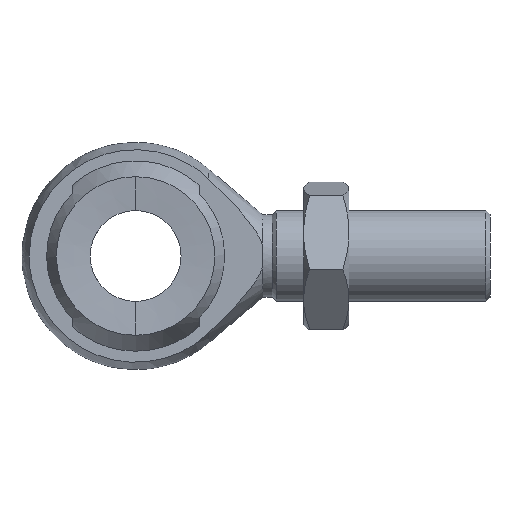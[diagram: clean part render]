
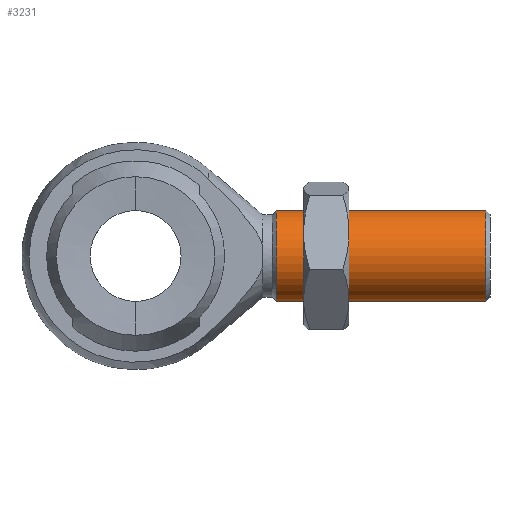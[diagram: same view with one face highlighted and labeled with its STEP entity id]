
A CAD part, front view. The second image highlights one B-rep face of the part: STEP entity #3231.
In plain terms, the highlighted cylindrical face has radius 10 mm (diameter 20 mm), a partial arc.
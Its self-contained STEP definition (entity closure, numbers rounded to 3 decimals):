
#78 = EDGE_LOOP ( 'NONE', ( #1681, #1058, #1233, #1677 ) ) ;
#163 = DIRECTION ( 'NONE',  ( 0., 0., 1. ) ) ;
#296 = DIRECTION ( 'NONE',  ( 1., 0., 0. ) ) ;
#325 = CIRCLE ( 'NONE', #2921, 10. ) ;
#357 = VERTEX_POINT ( 'NONE', #2998 ) ;
#517 = FACE_OUTER_BOUND ( 'NONE', #78, .T. ) ;
#793 = VERTEX_POINT ( 'NONE', #2101 ) ;
#857 = VECTOR ( 'NONE', #1100, 1000. ) ;
#983 = CARTESIAN_POINT ( 'NONE',  ( 27.323, 0.651, 93. ) ) ;
#997 = EDGE_CURVE ( 'NONE', #3014, #793, #325, .T. ) ;
#1058 = ORIENTED_EDGE ( 'NONE', *, *, #2139, .T. ) ;
#1100 = DIRECTION ( 'NONE',  ( -1., 0., 0. ) ) ;
#1233 = ORIENTED_EDGE ( 'NONE', *, *, #3408, .T. ) ;
#1263 = DIRECTION ( 'NONE',  ( -1., 0., 0. ) ) ;
#1311 = CARTESIAN_POINT ( 'NONE',  ( 27.323, 0.651, 103. ) ) ;
#1361 = VERTEX_POINT ( 'NONE', #2494 ) ;
#1677 = ORIENTED_EDGE ( 'NONE', *, *, #997, .T. ) ;
#1681 = ORIENTED_EDGE ( 'NONE', *, *, #3120, .F. ) ;
#1875 = DIRECTION ( 'NONE',  ( -1., 0., 0. ) ) ;
#1905 = DIRECTION ( 'NONE',  ( 0., 0., 1. ) ) ;
#1998 = CARTESIAN_POINT ( 'NONE',  ( 4.283, 0.651, 103. ) ) ;
#2101 = CARTESIAN_POINT ( 'NONE',  ( 4.283, 0.651, 93. ) ) ;
#2139 = EDGE_CURVE ( 'NONE', #357, #1361, #3036, .T. ) ;
#2270 = DIRECTION ( 'NONE',  ( 0., 0., 1. ) ) ;
#2313 = CYLINDRICAL_SURFACE ( 'NONE', #2488, 10. ) ;
#2360 = LINE ( 'NONE', #3027, #857 ) ;
#2488 = AXIS2_PLACEMENT_3D ( 'NONE', #1311, #3533, #1905 ) ;
#2494 = CARTESIAN_POINT ( 'NONE',  ( 50.363, 0.651, 113. ) ) ;
#2882 = LINE ( 'NONE', #983, #3520 ) ;
#2921 = AXIS2_PLACEMENT_3D ( 'NONE', #1998, #296, #2270 ) ;
#2998 = CARTESIAN_POINT ( 'NONE',  ( 50.363, 0.651, 93. ) ) ;
#3014 = VERTEX_POINT ( 'NONE', #3160 ) ;
#3027 = CARTESIAN_POINT ( 'NONE',  ( 27.323, 0.651, 113. ) ) ;
#3036 = CIRCLE ( 'NONE', #3409, 10. ) ;
#3120 = EDGE_CURVE ( 'NONE', #357, #793, #2882, .T. ) ;
#3160 = CARTESIAN_POINT ( 'NONE',  ( 4.283, 0.651, 113. ) ) ;
#3231 = ADVANCED_FACE ( 'NONE', ( #517 ), #2313, .T. ) ;
#3408 = EDGE_CURVE ( 'NONE', #1361, #3014, #2360, .T. ) ;
#3409 = AXIS2_PLACEMENT_3D ( 'NONE', #3509, #1875, #163 ) ;
#3509 = CARTESIAN_POINT ( 'NONE',  ( 50.363, 0.651, 103. ) ) ;
#3520 = VECTOR ( 'NONE', #1263, 1000. ) ;
#3533 = DIRECTION ( 'NONE',  ( -1., 0., 0. ) ) ;
